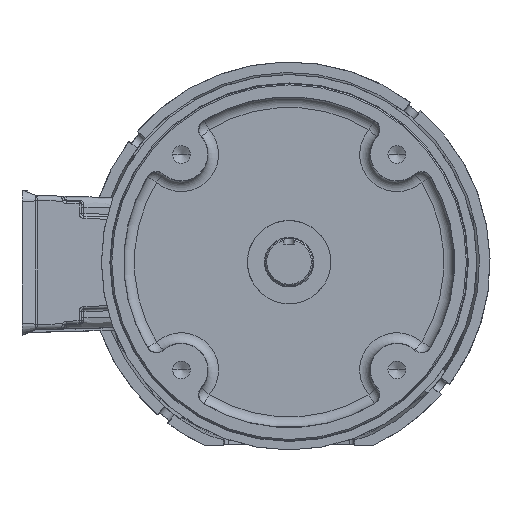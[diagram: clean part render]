
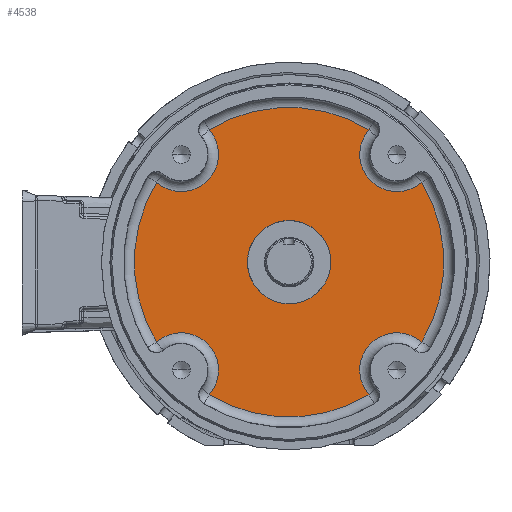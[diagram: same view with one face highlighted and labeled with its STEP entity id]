
A CAD part, top view. The second image highlights one B-rep face of the part: STEP entity #4538.
In plain terms, the highlighted planar face has unit normal (0, 0, 1).
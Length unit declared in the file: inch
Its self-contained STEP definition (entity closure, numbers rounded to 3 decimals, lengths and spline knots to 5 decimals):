
#1240=CARTESIAN_POINT('',(2.5668,-2.5668,-0.53));
#1241=DIRECTION('',(0.,0.,-1.));
#1242=DIRECTION('',(-0.75,-0.661,0.));
#1243=AXIS2_PLACEMENT_3D('',#1240,#1241,#1242);
#1255=CARTESIAN_POINT('',(0.,0.,-0.53));
#1256=DIRECTION('',(0.,0.,1.));
#1257=DIRECTION('',(0.,1.,0.));
#1258=AXIS2_PLACEMENT_3D('',#1255,#1256,#1257);
#1260=CARTESIAN_POINT('',(0.,0.,-0.53));
#1261=DIRECTION('',(0.,0.,1.));
#1262=DIRECTION('',(0.,-1.,0.));
#1263=AXIS2_PLACEMENT_3D('',#1260,#1261,#1262);
#1270=CARTESIAN_POINT('',(0.,0.,-0.53));
#1271=DIRECTION('',(0.,0.,1.));
#1272=DIRECTION('',(0.856,-0.516,0.));
#1273=AXIS2_PLACEMENT_3D('',#1270,#1271,#1272);
#1300=CARTESIAN_POINT('',(2.5668,2.5668,-0.53));
#1301=DIRECTION('',(0.,0.,-1.));
#1302=DIRECTION('',(0.661,-0.75,0.));
#1303=AXIS2_PLACEMENT_3D('',#1300,#1301,#1302);
#1325=CARTESIAN_POINT('',(0.,0.,-0.53));
#1326=DIRECTION('',(0.,0.,1.));
#1327=DIRECTION('',(0.516,0.856,0.));
#1328=AXIS2_PLACEMENT_3D('',#1325,#1326,#1327);
#1345=CARTESIAN_POINT('',(-2.5668,2.5668,-0.53));
#1346=DIRECTION('',(0.,0.,-1.));
#1347=DIRECTION('',(0.75,0.661,0.));
#1348=AXIS2_PLACEMENT_3D('',#1345,#1346,#1347);
#1370=CARTESIAN_POINT('',(0.,0.,-0.53));
#1371=DIRECTION('',(0.,0.,1.));
#1372=DIRECTION('',(-0.856,0.516,0.));
#1373=AXIS2_PLACEMENT_3D('',#1370,#1371,#1372);
#1395=CARTESIAN_POINT('',(-2.5668,-2.5668,-0.53));
#1396=DIRECTION('',(0.,0.,-1.));
#1397=DIRECTION('',(-0.661,0.75,0.));
#1398=AXIS2_PLACEMENT_3D('',#1395,#1396,#1397);
#1420=CARTESIAN_POINT('',(0.,0.,-0.53));
#1421=DIRECTION('',(0.,0.,1.));
#1422=DIRECTION('',(-0.516,-0.856,0.));
#1423=AXIS2_PLACEMENT_3D('',#1420,#1421,#1422);
#3699=CARTESIAN_POINT('',(1.90128,-3.15382,-0.53));
#3701=VERTEX_POINT('',#3699);
#3703=CARTESIAN_POINT('',(3.15382,-1.90128,-0.53));
#3705=VERTEX_POINT('',#3703);
#3709=CARTESIAN_POINT('',(-1.90128,-3.15382,-0.53));
#3711=VERTEX_POINT('',#3709);
#3713=CARTESIAN_POINT('',(-3.15382,-1.90128,-0.53));
#3715=VERTEX_POINT('',#3713);
#3719=CARTESIAN_POINT('',(-3.15382,1.90128,-0.53));
#3721=VERTEX_POINT('',#3719);
#3725=CARTESIAN_POINT('',(-1.90128,3.15382,-0.53));
#3727=VERTEX_POINT('',#3725);
#3731=CARTESIAN_POINT('',(1.90128,3.15382,-0.53));
#3733=VERTEX_POINT('',#3731);
#3737=CARTESIAN_POINT('',(3.15382,1.90128,-0.53));
#3739=VERTEX_POINT('',#3737);
#3962=CARTESIAN_POINT('',(0.,0.9915,-0.53));
#3963=CARTESIAN_POINT('',(0.,-0.9915,-0.53));
#3964=VERTEX_POINT('',#3962);
#3965=VERTEX_POINT('',#3963);
#4510=CARTESIAN_POINT('',(0.,0.,-0.53));
#4511=DIRECTION('',(0.,0.,1.));
#4512=DIRECTION('',(0.,1.,0.));
#4513=AXIS2_PLACEMENT_3D('',#4510,#4511,#4512);
#4514=PLANE('',#4513);
#4516=ORIENTED_EDGE('',*,*,#4515,.F.);
#4517=ORIENTED_EDGE('',*,*,#4502,.F.);
#4519=ORIENTED_EDGE('',*,*,#4518,.F.);
#4521=ORIENTED_EDGE('',*,*,#4520,.F.);
#4523=ORIENTED_EDGE('',*,*,#4522,.F.);
#4525=ORIENTED_EDGE('',*,*,#4524,.F.);
#4527=ORIENTED_EDGE('',*,*,#4526,.F.);
#4529=ORIENTED_EDGE('',*,*,#4528,.F.);
#4530=EDGE_LOOP('',(#4516,#4517,#4519,#4521,#4523,#4525,#4527,#4529));
#4531=FACE_OUTER_BOUND('',#4530,.F.);
#4533=ORIENTED_EDGE('',*,*,#4532,.T.);
#4535=ORIENTED_EDGE('',*,*,#4534,.T.);
#4536=EDGE_LOOP('',(#4533,#4535));
#4537=FACE_BOUND('',#4536,.F.);
#4538=ADVANCED_FACE('',(#4531,#4537),#4514,.T.);
#1244=CIRCLE('',#1243,0.88742);
#1259=CIRCLE('',#1258,0.9915);
#1264=CIRCLE('',#1263,0.9915);
#1274=CIRCLE('',#1273,3.68258);
#1304=CIRCLE('',#1303,0.88742);
#1329=CIRCLE('',#1328,3.68258);
#1349=CIRCLE('',#1348,0.88742);
#1374=CIRCLE('',#1373,3.68258);
#1399=CIRCLE('',#1398,0.88742);
#1424=CIRCLE('',#1423,3.68258);
#4502=EDGE_CURVE('',#3701,#3705,#1244,.T.);
#4515=EDGE_CURVE('',#3705,#3739,#1274,.T.);
#4518=EDGE_CURVE('',#3711,#3701,#1424,.T.);
#4520=EDGE_CURVE('',#3715,#3711,#1399,.T.);
#4522=EDGE_CURVE('',#3721,#3715,#1374,.T.);
#4524=EDGE_CURVE('',#3727,#3721,#1349,.T.);
#4526=EDGE_CURVE('',#3733,#3727,#1329,.T.);
#4528=EDGE_CURVE('',#3739,#3733,#1304,.T.);
#4532=EDGE_CURVE('',#3964,#3965,#1259,.T.);
#4534=EDGE_CURVE('',#3965,#3964,#1264,.T.);
